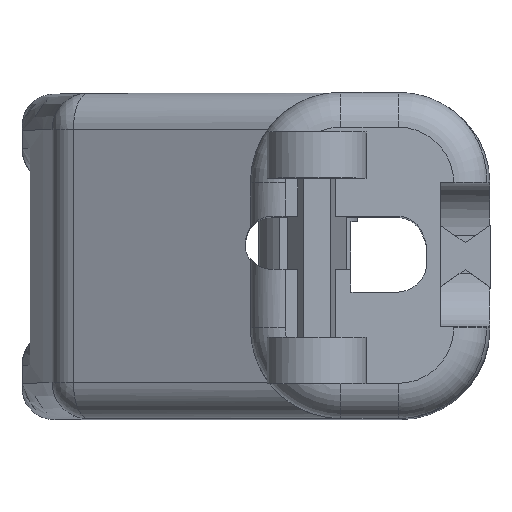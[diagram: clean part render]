
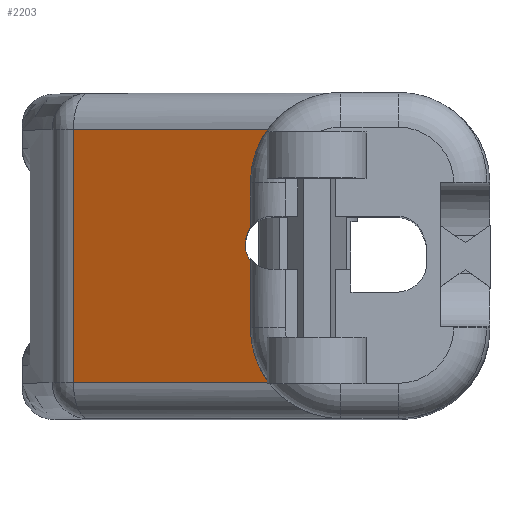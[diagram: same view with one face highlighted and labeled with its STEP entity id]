
A CAD part, top view. The second image highlights one B-rep face of the part: STEP entity #2203.
In plain terms, the highlighted planar face has unit normal (-0.412, 0, 0.911).
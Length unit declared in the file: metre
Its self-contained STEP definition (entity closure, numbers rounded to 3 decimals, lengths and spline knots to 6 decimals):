
#25=ELLIPSE('',#2336,0.001659,0.001512);
#26=ELLIPSE('',#2341,0.005608,0.005109);
#27=ELLIPSE('',#2345,0.005608,0.005109);
#28=ELLIPSE('',#2381,0.001616,0.001473);
#131=LINE('',#3348,#338);
#135=LINE('',#3357,#342);
#159=LINE('',#3508,#366);
#162=LINE('',#3518,#369);
#167=LINE('',#3559,#374);
#338=VECTOR('',#2637,1.);
#342=VECTOR('',#2643,1.);
#366=VECTOR('',#2739,1.);
#369=VECTOR('',#2748,1.);
#374=VECTOR('',#2775,1.);
#497=PLANE('',#2380);
#820=ORIENTED_EDGE('',*,*,#1418,.F.);
#821=ORIENTED_EDGE('',*,*,#1343,.T.);
#822=ORIENTED_EDGE('',*,*,#1362,.T.);
#823=ORIENTED_EDGE('',*,*,#1405,.T.);
#824=ORIENTED_EDGE('',*,*,#1419,.T.);
#825=ORIENTED_EDGE('',*,*,#1400,.T.);
#826=ORIENTED_EDGE('',*,*,#1368,.T.);
#827=ORIENTED_EDGE('',*,*,#1347,.T.);
#828=ORIENTED_EDGE('',*,*,#1355,.F.);
#1343=EDGE_CURVE('',#1666,#1668,#131,.T.);
#1347=EDGE_CURVE('',#1673,#1672,#135,.T.);
#1355=EDGE_CURVE('',#1675,#1672,#25,.F.);
#1362=EDGE_CURVE('',#1668,#1681,#26,.T.);
#1368=EDGE_CURVE('',#1686,#1673,#27,.T.);
#1400=EDGE_CURVE('',#1701,#1686,#159,.F.);
#1405=EDGE_CURVE('',#1681,#1704,#162,.F.);
#1418=EDGE_CURVE('',#1666,#1675,#28,.F.);
#1419=EDGE_CURVE('',#1704,#1701,#167,.T.);
#1666=VERTEX_POINT('',#3343);
#1668=VERTEX_POINT('',#3347);
#1672=VERTEX_POINT('',#3356);
#1673=VERTEX_POINT('',#3358);
#1675=VERTEX_POINT('',#3378);
#1681=VERTEX_POINT('',#3400);
#1686=VERTEX_POINT('',#3421);
#1701=VERTEX_POINT('',#3509);
#1704=VERTEX_POINT('',#3517);
#1931=EDGE_LOOP('',(#820,#821,#822,#823,#824,#825,#826,#827,#828));
#2064=FACE_BOUND('',#1931,.T.);
#2203=ADVANCED_FACE('',(#2064),#497,.F.);
#2336=AXIS2_PLACEMENT_3D('',#3379,#2656,#2657);
#2341=AXIS2_PLACEMENT_3D('',#3399,#2668,#2669);
#2345=AXIS2_PLACEMENT_3D('',#3420,#2678,#2679);
#2380=AXIS2_PLACEMENT_3D('',#3557,#2771,#2772);
#2381=AXIS2_PLACEMENT_3D('',#3558,#2773,#2774);
#2637=DIRECTION('',(0.,1.,0.));
#2643=DIRECTION('',(0.,1.,0.));
#2656=DIRECTION('',(0.412,0.,-0.911));
#2657=DIRECTION('',(0.911,0.,0.412));
#2668=DIRECTION('',(0.412,0.,-0.911));
#2669=DIRECTION('',(-0.911,0.,-0.412));
#2678=DIRECTION('',(0.412,0.,-0.911));
#2679=DIRECTION('',(-0.911,0.,-0.412));
#2739=DIRECTION('',(-0.911,0.,-0.412));
#2748=DIRECTION('',(0.911,0.,0.412));
#2771=DIRECTION('',(0.412,0.,-0.911));
#2772=DIRECTION('',(-0.911,0.,-0.412));
#2773=DIRECTION('',(0.412,0.,-0.911));
#2774=DIRECTION('',(-0.911,0.,-0.412));
#2775=DIRECTION('',(0.,-1.,0.));
#3343=CARTESIAN_POINT('',(0.020094,0.021817,0.117305));
#3347=CARTESIAN_POINT('',(0.020094,0.024345,0.117305));
#3348=CARTESIAN_POINT('',(0.020094,0.020249,0.117305));
#3356=CARTESIAN_POINT('',(0.020094,0.019956,0.117305));
#3357=CARTESIAN_POINT('',(0.020094,0.020249,0.117305));
#3358=CARTESIAN_POINT('',(0.020094,0.016154,0.117305));
#3378=CARTESIAN_POINT('',(0.01986,0.021268,0.117199));
#3379=CARTESIAN_POINT('',(0.021313,0.020851,0.117856));
#3399=CARTESIAN_POINT('',(0.025203,0.024345,0.119617));
#3400=CARTESIAN_POINT('',(0.021084,0.027367,0.117753));
#3420=CARTESIAN_POINT('',(0.025203,0.016154,0.119617));
#3421=CARTESIAN_POINT('',(0.021119,0.013084,0.117769));
#3508=CARTESIAN_POINT('',(0.01242,0.013084,0.113833));
#3509=CARTESIAN_POINT('',(0.010101,0.013084,0.112783));
#3517=CARTESIAN_POINT('',(0.010101,0.027367,0.112783));
#3518=CARTESIAN_POINT('',(0.01242,0.027367,0.113833));
#3557=CARTESIAN_POINT('',(0.01242,0.000613,0.113833));
#3558=CARTESIAN_POINT('',(0.021304,0.020976,0.117852));
#3559=CARTESIAN_POINT('',(0.010101,0.013084,0.112783));
